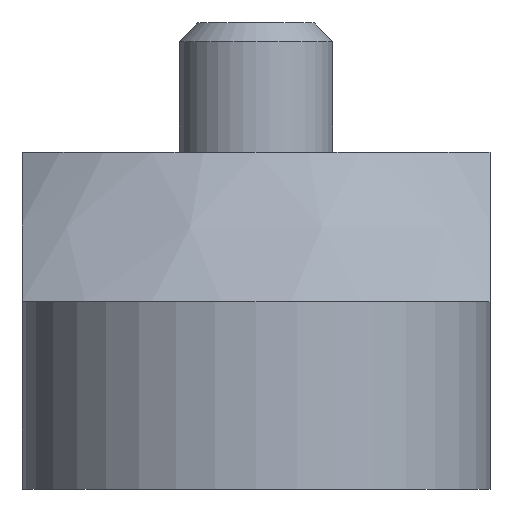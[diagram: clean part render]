
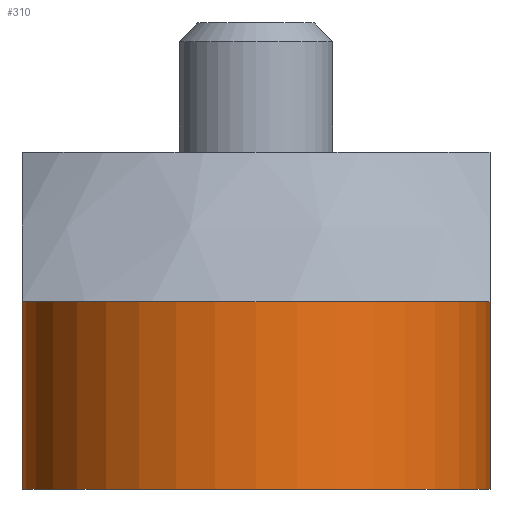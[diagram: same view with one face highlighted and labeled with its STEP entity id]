
A CAD part, front view. The second image highlights one B-rep face of the part: STEP entity #310.
In plain terms, the highlighted cylindrical face has radius 12.5 mm (diameter 25 mm), a partial arc.
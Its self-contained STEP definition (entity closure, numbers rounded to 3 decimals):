
#21=CYLINDRICAL_SURFACE('',#351,12.5);
#31=LINE('',#519,#41);
#32=LINE('',#523,#42);
#41=VECTOR('',#410,1000.);
#42=VECTOR('',#413,1000.);
#54=ORIENTED_EDGE('',*,*,#125,.T.);
#55=ORIENTED_EDGE('',*,*,#126,.F.);
#56=ORIENTED_EDGE('',*,*,#127,.F.);
#57=ORIENTED_EDGE('',*,*,#128,.T.);
#125=EDGE_CURVE('',#158,#161,#189,.T.);
#126=EDGE_CURVE('',#162,#161,#31,.T.);
#127=EDGE_CURVE('',#163,#162,#190,.T.);
#128=EDGE_CURVE('',#163,#158,#32,.T.);
#158=VERTEX_POINT('',#511);
#161=VERTEX_POINT('',#516);
#162=VERTEX_POINT('',#520);
#163=VERTEX_POINT('',#522);
#189=CIRCLE('',#350,12.5);
#190=CIRCLE('',#352,12.5);
#213=EDGE_LOOP('',(#54,#55,#56,#57));
#257=FACE_BOUND('',#213,.T.);
#310=ADVANCED_FACE('',(#257),#21,.T.);
#350=AXIS2_PLACEMENT_3D('',#517,#406,#407);
#351=AXIS2_PLACEMENT_3D('',#518,#408,#409);
#352=AXIS2_PLACEMENT_3D('',#521,#411,#412);
#406=DIRECTION('',(0.,0.,-1.));
#407=DIRECTION('',(-1.,0.,0.));
#408=DIRECTION('',(0.,0.,1.));
#409=DIRECTION('',(-1.,0.,0.));
#410=DIRECTION('',(0.,0.,1.));
#411=DIRECTION('',(0.,0.,-1.));
#412=DIRECTION('',(-1.,0.,0.));
#413=DIRECTION('',(0.,0.,1.));
#511=CARTESIAN_POINT('',(68.75,0.,54.25));
#516=CARTESIAN_POINT('',(43.75,0.,54.25));
#517=CARTESIAN_POINT('',(56.25,0.,54.25));
#518=CARTESIAN_POINT('',(56.25,0.,44.25));
#519=CARTESIAN_POINT('',(43.75,0.,44.25));
#520=CARTESIAN_POINT('',(43.75,0.,44.25));
#521=CARTESIAN_POINT('',(56.25,0.,44.25));
#522=CARTESIAN_POINT('',(68.75,0.,44.25));
#523=CARTESIAN_POINT('',(68.75,0.,44.25));
